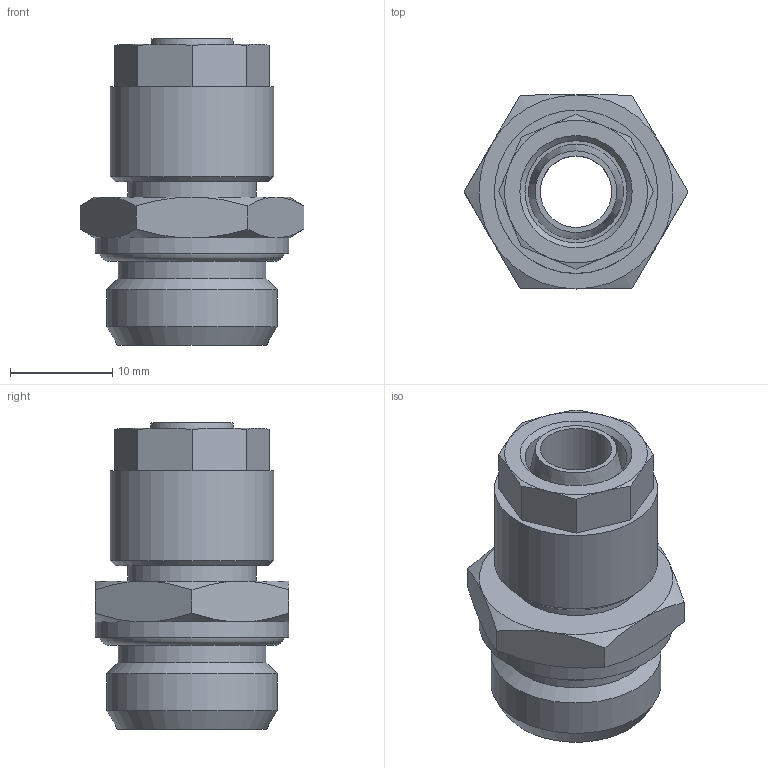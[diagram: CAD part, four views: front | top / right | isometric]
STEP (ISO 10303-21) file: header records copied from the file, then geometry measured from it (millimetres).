
FILE_DESCRIPTION(/* description */ (''),/* implementation_level */ '2;1');
FILE_NAME(/* name */ '10217_301Z_108_38_14.09.15',/* time_stamp */ '2015-09-14T10:38:17+02:00',/* author */ (''),/* organization */ (''),/* preprocessor_version */ 'ST-DEVELOPER v14',/* originating_system */ 'HiCAD 2013 1802.4 Build 509',/* authorisation */ '');
FILE_SCHEMA (('AUTOMOTIVE_DESIGN { 1 0 10303 214 1 1 1 1 }'));
Length unit declared in the file: millimetre
Products named in the file (4): Root; R10217; 17007; OR 14X1.78
Assembly tree (3 placements, depth 2):
  Root
    R10217
    17007
    OR 14X1.78
Bounding box: 21.94 x 19 x 30 mm (x, y, z)
Volume: 4196.8 mm3; surface area: 4396.3 mm2
Topology: 3 solids, 3 shells, 71 faces, 155 edges, 95 vertices
Faces by surface type: cone 32, plane 24, cylinder 11, torus 4
Full cylindrical faces by diameter (mm): 7 x1, 8.5 x1, 10 x1, 11 x1, 12.6 x1, 12.773 x1, 14 x1, 14.5 x1, 16 x1, 16.662 x1, 19 x1
Entity records: 2969 total; most frequent: DIRECTION 364, CARTESIAN_POINT 276, PRESENTATION_STYLE_ASSIGNMENT 235, COLOUR_RGB 234, DRAUGHTING_PRE_DEFINED_CURVE_FONT 232, CURVE_STYLE 232, OVER_RIDING_STYLED_ITEM 232, ORIENTED_EDGE 232
